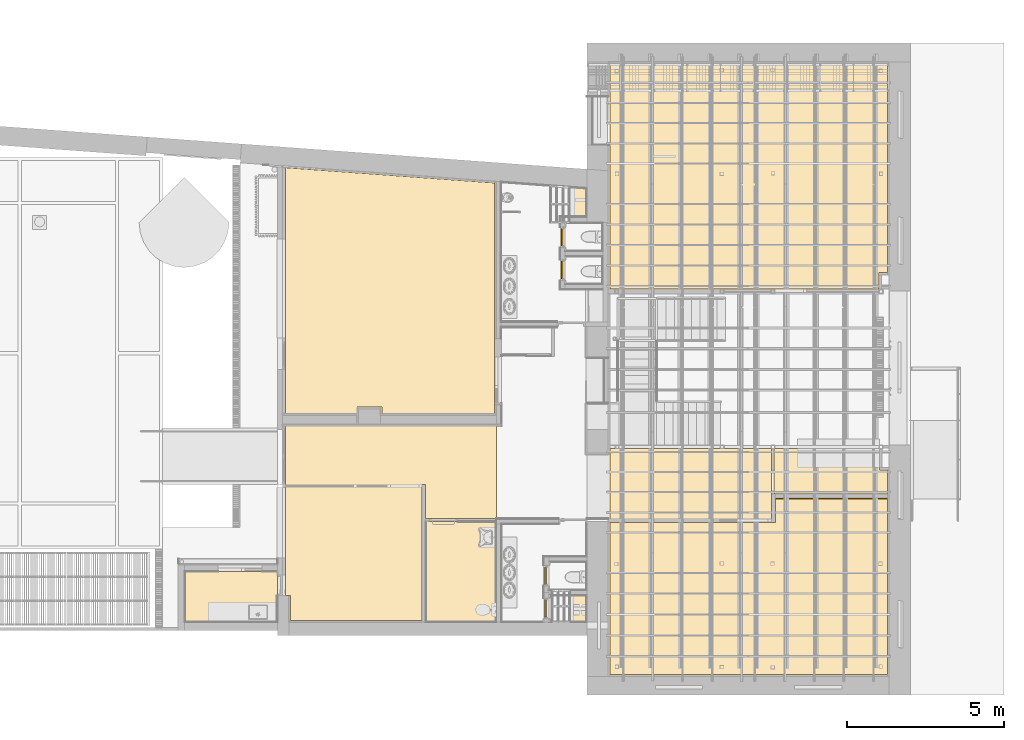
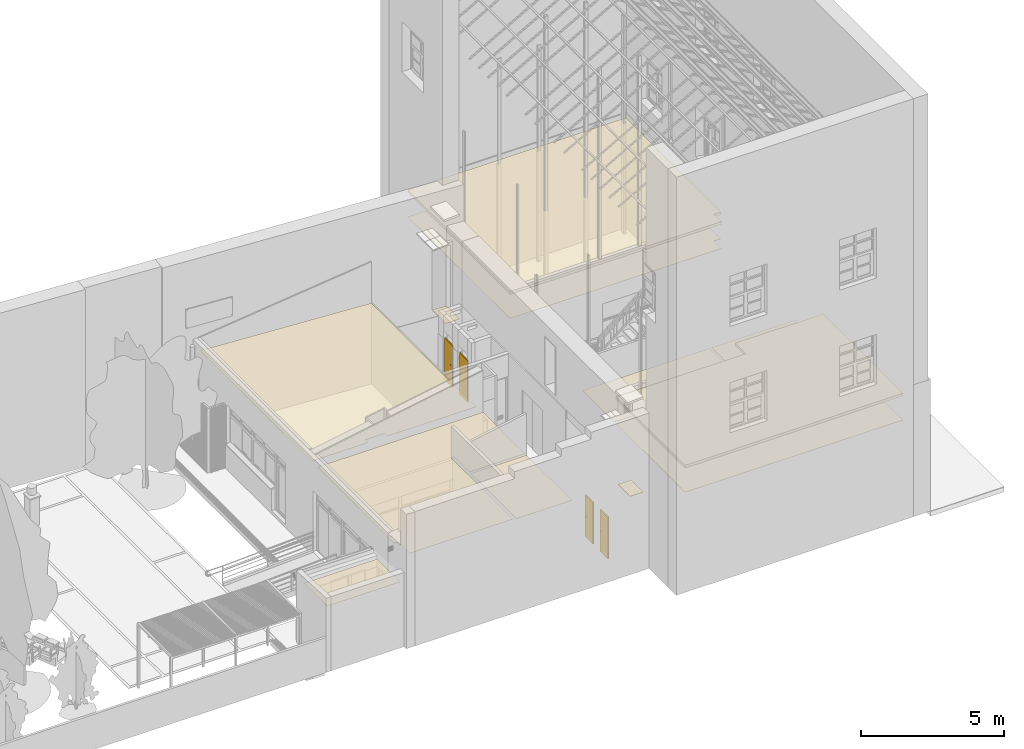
# One storey, part 56 of 75: 8 coverings, 4 doors, 4 elements without a shape of their own.
"""IFC2X3 building model written with IfcOpenShell, lengths in metres."""

from ifc_helpers import new_model, entity, si_unit, converted_unit, derived_unit, direction, frame, frame_2d, origin, origin_2d_with_axis, place, context, subcontext, project, spatial, polyline, rectangle, outline, extrude, source, transform, mapped, material, material_list, layer, layer_set, layer_usage, type_object, type_shapes, element, aggregate, save


model = new_model("IFC2X3")

# Units and contexts
model_context = context("Model", 3, precision=1e-05, world=origin(), true_north=direction((6.12303176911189e-17, 1.0)))
body_context = subcontext(model_context, "Body", "Model", "MODEL_VIEW")
ifc_project = project(units=[si_unit("LENGTHUNIT", "METRE"), si_unit("AREAUNIT", "SQUARE_METRE"), si_unit("VOLUMEUNIT", "CUBIC_METRE"), converted_unit("PLANEANGLEUNIT", "DEGREE", entity("IfcRatioMeasure", 0.0174532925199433), si_unit("PLANEANGLEUNIT", "RADIAN"), dimensions=[0, 0, 0, 0, 0, 0, 0]), si_unit("MASSUNIT", "GRAM", prefix="KILO"), derived_unit("MASSDENSITYUNIT", [(si_unit("MASSUNIT", "GRAM", prefix="KILO"), 1), (si_unit("LENGTHUNIT", "METRE"), -3)]), derived_unit("MOMENTOFINERTIAUNIT", [(si_unit("LENGTHUNIT", "METRE"), 4)]), si_unit("TIMEUNIT", "SECOND"), si_unit("FREQUENCYUNIT", "HERTZ"), si_unit("THERMODYNAMICTEMPERATUREUNIT", "DEGREE_CELSIUS"), derived_unit("THERMALTRANSMITTANCEUNIT", [(si_unit("MASSUNIT", "GRAM", prefix="KILO"), 1), (si_unit("THERMODYNAMICTEMPERATUREUNIT", "KELVIN"), -1), (si_unit("TIMEUNIT", "SECOND"), -3)]), derived_unit("VOLUMETRICFLOWRATEUNIT", [(si_unit("LENGTHUNIT", "METRE"), 3), (si_unit("TIMEUNIT", "SECOND"), -1)]), si_unit("ELECTRICCURRENTUNIT", "AMPERE"), si_unit("ELECTRICVOLTAGEUNIT", "VOLT"), si_unit("POWERUNIT", "WATT"), si_unit("FORCEUNIT", "NEWTON", prefix="KILO"), si_unit("ILLUMINANCEUNIT", "LUX"), si_unit("LUMINOUSFLUXUNIT", "LUMEN"), si_unit("LUMINOUSINTENSITYUNIT", "CANDELA"), derived_unit("USERDEFINED", [(si_unit("MASSUNIT", "GRAM", prefix="KILO"), -1), (si_unit("LENGTHUNIT", "METRE"), -2), (si_unit("TIMEUNIT", "SECOND"), 3), (si_unit("LUMINOUSFLUXUNIT", "LUMEN"), 1)]), derived_unit("LINEARVELOCITYUNIT", [(si_unit("LENGTHUNIT", "METRE"), 1), (si_unit("TIMEUNIT", "SECOND"), -1)]), si_unit("PRESSUREUNIT", "PASCAL"), derived_unit("USERDEFINED", [(si_unit("LENGTHUNIT", "METRE"), -2), (si_unit("MASSUNIT", "GRAM", prefix="KILO"), 1), (si_unit("TIMEUNIT", "SECOND"), -2)]), derived_unit("LINEARFORCEUNIT", [(si_unit("MASSUNIT", "GRAM", prefix="KILO"), 1), (si_unit("LENGTHUNIT", "METRE"), 1), (si_unit("TIMEUNIT", "SECOND"), -2), (si_unit("LENGTHUNIT", "METRE"), -1)]), derived_unit("PLANARFORCEUNIT", [(si_unit("MASSUNIT", "GRAM", prefix="KILO"), 1), (si_unit("LENGTHUNIT", "METRE"), 1), (si_unit("TIMEUNIT", "SECOND"), -2), (si_unit("LENGTHUNIT", "METRE"), -2)])], contexts=[model_context])

# Site, building, storey
site_placement = place(None, origin())
site = spatial("IfcSite", under=ifc_project, at=site_placement, Name="Superficie", CompositionType="ELEMENT")
building_placement = place(site_placement, origin())
building = spatial("IfcBuilding", under=site, at=building_placement, Name="Telegestiones", CompositionType="ELEMENT")
storey_placement = place(building_placement, origin())
storey = spatial("IfcBuildingStorey", under=building, at=storey_placement, Name="Nivel 0_NPT", CompositionType="ELEMENT", Elevation=0.0)

# Curtain wall, door
curtain_wall_type = type_object("IfcCurtainWallType", PredefinedType="NOTDEFINED")
curtain_wall_1_placement = place(storey_placement, origin())
curtain_wall_1 = element("IfcCurtainWall", 1, at=curtain_wall_1_placement, inside=storey, type_object=curtain_wall_type)
ifc_material_1 = material(Name="Metal - Aluminio")
ifc_material_2 = material(Name="<Unnamed>")
ifc_material_list_1 = material_list([ifc_material_1, ifc_material_1, ifc_material_2])
ifc_material_list_2 = material_list([ifc_material_1, ifc_material_1, ifc_material_2])
door_style_1 = type_object("IfcDoorStyle", Name="ARQ-PU-INT-Alu (muro cortina):ARQ-PU-IN-Alu-sshh", ConstructionType="NOTDEFINED", OperationType="NOTDEFINED", ParameterTakesPrecedence=False, Sizeable=False, material=ifc_material_list_2)
shared_shape_1 = source(origin(), body_context, "Body", "SweptSolid", [
    extrude(rectangle(XDim=0.0199999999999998, YDim=0.02, at=frame_2d((0.0, 8.67361737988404e-19), x_axis=(1.0, 0.0))), frame((0.188800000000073, -0.02, 0.9)), (0.0, 0.0, 1.0), 0.0200000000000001),
    extrude(rectangle(XDim=0.02, YDim=0.02, at=frame_2d((0.0, 8.67361737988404e-18), x_axis=(1.0, 0.0))), frame((0.188800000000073, 0.0699999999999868, 0.9), z_axis=(0.0, 0.0, 1.0), x_axis=(-1.0, 0.0, 0.0)), (0.0, 0.0, 1.0), 0.0200000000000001),
    extrude(rectangle(XDim=0.0499999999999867, YDim=0.550000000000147, at=origin_2d_with_axis()), frame((0.0, 0.0249999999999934, 0.0), z_axis=(0.0, 0.0, 1.0), x_axis=(0.0, -1.0, 0.0)), (0.0, 0.0, 1.0), 1.78),
])
type_shapes(door_style_1, [shared_shape_1])
door_1_placement = place(curtain_wall_1_placement, frame((4.06481262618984, -2.60639277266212, 0.32), z_axis=(0.0, 0.0, 1.0), x_axis=(0.0, 1.0, 0.0)))
door_1 = element("IfcDoor", 2, at=door_1_placement, type_object=door_style_1, material=ifc_material_list_1, Name="ARQ-PU-INT-Alu (muro cortina):ARQ-PU-IN-Alu-sshh", ObjectType="ARQ-PU-INT-Alu (muro cortina):ARQ-PU-IN-Alu-sshh", OverallHeight=1.78000000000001, OverallWidth=0.550000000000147, context=body_context, shape_type="MappedRepresentation", body=[
    mapped(shared_shape_1, transform((0.0, 0.0, 0.0), scale=1.0)),
])
aggregate(curtain_wall_1, [door_1])

curtain_wall_2_placement = place(storey_placement, origin())
curtain_wall_2 = element("IfcCurtainWall", 3, at=curtain_wall_2_placement, inside=storey, type_object=curtain_wall_type)
ifc_material_list_3 = material_list([ifc_material_1, ifc_material_1, ifc_material_2])
ifc_material_list_4 = material_list([ifc_material_1, ifc_material_1, ifc_material_2])
door_style_2 = type_object("IfcDoorStyle", Name="ARQ-PU-INT-Alu (muro cortina):ARQ-PU-IN-Alu-sshh", ConstructionType="NOTDEFINED", OperationType="NOTDEFINED", ParameterTakesPrecedence=False, Sizeable=False, material=ifc_material_list_4)
shared_shape_2 = source(origin(), body_context, "Body", "SweptSolid", [
    extrude(rectangle(XDim=0.0199999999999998, YDim=0.02, at=frame_2d((0.0, 8.67361737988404e-19), x_axis=(1.0, 0.0))), frame((0.188786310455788, -0.02, 0.9)), (0.0, 0.0, 1.0), 0.0200000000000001),
    extrude(rectangle(XDim=0.02, YDim=0.02, at=frame_2d((0.0, 8.67361737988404e-18), x_axis=(1.0, 0.0))), frame((0.188786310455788, 0.0699999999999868, 0.9), z_axis=(0.0, 0.0, 1.0), x_axis=(-1.0, 0.0, 0.0)), (0.0, 0.0, 1.0), 0.0200000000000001),
    extrude(rectangle(XDim=0.0499999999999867, YDim=0.549972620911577, at=origin_2d_with_axis()), frame((0.0, 0.0249999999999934, 0.0), z_axis=(0.0, 0.0, 1.0), x_axis=(0.0, -1.0, 0.0)), (0.0, 0.0, 1.0), 1.78),
])
type_shapes(door_style_2, [shared_shape_2])
door_2_placement = place(curtain_wall_2_placement, frame((4.06481262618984, -3.64637908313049, 0.32), z_axis=(0.0, 0.0, 1.0), x_axis=(0.0, 1.0, 0.0)))
door_2 = element("IfcDoor", 4, at=door_2_placement, type_object=door_style_2, material=ifc_material_list_3, Name="ARQ-PU-INT-Alu (muro cortina):ARQ-PU-IN-Alu-sshh", ObjectType="ARQ-PU-INT-Alu (muro cortina):ARQ-PU-IN-Alu-sshh", OverallHeight=1.78000000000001, OverallWidth=0.549972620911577, context=body_context, shape_type="MappedRepresentation", body=[
    mapped(shared_shape_2, transform((0.0, 0.0, 0.0), scale=1.0)),
])
aggregate(curtain_wall_2, [door_2])

curtain_wall_3_placement = place(storey_placement, origin())
curtain_wall_3 = element("IfcCurtainWall", 5, at=curtain_wall_3_placement, inside=storey, type_object=curtain_wall_type)
ifc_material_list_5 = material_list([ifc_material_1, ifc_material_1, ifc_material_2])
ifc_material_list_6 = material_list([ifc_material_1, ifc_material_1, ifc_material_2])
door_style_3 = type_object("IfcDoorStyle", Name="ARQ-PU-INT-Alu (muro cortina):ARQ-PU-IN-Alu-sshh", ConstructionType="NOTDEFINED", OperationType="NOTDEFINED", ParameterTakesPrecedence=False, Sizeable=False, material=ifc_material_list_6)
shared_shape_3 = source(origin(), body_context, "Body", "SweptSolid", [
    extrude(rectangle(XDim=0.0199999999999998, YDim=0.02, at=frame_2d((0.0, 8.67361737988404e-19), x_axis=(1.0, 0.0))), frame((0.19361817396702, -0.02, 0.9)), (0.0, 0.0, 1.0), 0.0200000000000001),
    extrude(rectangle(XDim=0.02, YDim=0.02, at=frame_2d((0.0, 8.67361737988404e-18), x_axis=(1.0, 0.0))), frame((0.19361817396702, 0.0699999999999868, 0.9), z_axis=(0.0, 0.0, 1.0), x_axis=(-1.0, 0.0, 0.0)), (0.0, 0.0, 1.0), 0.0200000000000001),
    extrude(rectangle(XDim=0.0499999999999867, YDim=0.55963634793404, at=origin_2d_with_axis()), frame((0.0, 0.0249999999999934, 0.0), z_axis=(0.0, 0.0, 1.0), x_axis=(0.0, -1.0, 0.0)), (0.0, 0.0, 1.0), 1.78),
])
type_shapes(door_style_3, [shared_shape_3])
door_3_placement = place(curtain_wall_3_placement, frame((4.58995224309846, 7.11342540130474, 0.32), z_axis=(0.0, 0.0, 1.0), x_axis=(0.0, 1.0, 0.0)))
door_3 = element("IfcDoor", 6, at=door_3_placement, type_object=door_style_3, material=ifc_material_list_5, Name="ARQ-PU-INT-Alu (muro cortina):ARQ-PU-IN-Alu-sshh", ObjectType="ARQ-PU-INT-Alu (muro cortina):ARQ-PU-IN-Alu-sshh", OverallHeight=1.78000000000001, OverallWidth=0.55963634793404, context=body_context, shape_type="MappedRepresentation", body=[
    mapped(shared_shape_3, transform((0.0, 0.0, 0.0), scale=1.0)),
])
aggregate(curtain_wall_3, [door_3])

curtain_wall_4_placement = place(storey_placement, origin())
curtain_wall_4 = element("IfcCurtainWall", 7, at=curtain_wall_4_placement, inside=storey, type_object=curtain_wall_type)
ifc_material_list_7 = material_list([ifc_material_1, ifc_material_1, ifc_material_2])
ifc_material_list_8 = material_list([ifc_material_1, ifc_material_1, ifc_material_2])
door_style_4 = type_object("IfcDoorStyle", Name="ARQ-PU-INT-Alu (muro cortina):ARQ-PU-IN-Alu-sshh", ConstructionType="NOTDEFINED", OperationType="NOTDEFINED", ParameterTakesPrecedence=False, Sizeable=False, material=ifc_material_list_8)
shared_shape_4 = source(origin(), body_context, "Body", "SweptSolid", [
    extrude(rectangle(XDim=0.02, YDim=0.0199999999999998, at=origin_2d_with_axis()), frame((-0.188799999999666, -0.02, 0.9), z_axis=(0.0, 0.0, 1.0), x_axis=(0.0, 1.0, 0.0)), (0.0, 0.0, 1.0), 0.0200000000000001),
    extrude(rectangle(XDim=0.02, YDim=0.02, at=origin_2d_with_axis()), frame((-0.188799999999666, 0.0699999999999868, 0.9), z_axis=(0.0, 0.0, 1.0), x_axis=(0.0, -1.0, 0.0)), (0.0, 0.0, 1.0), 0.0200000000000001),
    extrude(rectangle(XDim=0.549999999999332, YDim=0.0499999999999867, at=origin_2d_with_axis()), frame((0.0, 0.0249999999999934, 0.0), z_axis=(0.0, 0.0, 1.0), x_axis=(-1.0, 0.0, 0.0)), (0.0, 0.0, 1.0), 1.78),
])
type_shapes(door_style_4, [shared_shape_4])
door_4_placement = place(curtain_wall_4_placement, frame((4.58981262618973, 8.15860722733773, 0.32), z_axis=(0.0, 0.0, 1.0), x_axis=(0.0, 1.0, 0.0)))
door_4 = element("IfcDoor", 8, at=door_4_placement, type_object=door_style_4, material=ifc_material_list_7, Name="ARQ-PU-INT-Alu (muro cortina):ARQ-PU-IN-Alu-sshh", ObjectType="ARQ-PU-INT-Alu (muro cortina):ARQ-PU-IN-Alu-sshh", OverallHeight=1.78000000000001, OverallWidth=0.549999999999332, context=body_context, shape_type="MappedRepresentation", body=[
    mapped(shared_shape_4, transform((0.0, 0.0, 0.0), scale=1.0)),
])
aggregate(curtain_wall_4, [door_4])

# Coverings
ifc_material_3 = material(Name="Placa yeso entera")
ifc_layer_1 = layer(ifc_material_3, 0.012)
ifc_layer_set_1 = layer_set([ifc_layer_1], Name="Cielo raso de cubierta:ARQ-CL-IN-12-Ye")
ifc_layer_usage_1 = layer_usage(ifc_layer_set_1, "AXIS3", "POSITIVE", 0.0)
covering_type_1 = type_object("IfcCoveringType", Name="Cielo raso de cubierta:ARQ-CL-IN-12-Ye", PredefinedType="CEILING")
covering_1_placement = place(storey_placement, origin())
element("IfcCovering", 9, at=covering_1_placement, inside=storey, type_object=covering_type_1, material=ifc_layer_usage_1, Name="Cielo raso de cubierta:ARQ-CL-IN-12-Ye", ObjectType="Cielo raso de cubierta:ARQ-CL-IN-12-Ye", PredefinedType="CEILING", context=body_context, shape_type="SweptSolid", body=[
    extrude(outline(polyline([(-1.94049721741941, -3.65443924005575), (5.38799187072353, -3.65443924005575), (5.87499671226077, 2.99815485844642), (-1.94549721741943, 2.99815485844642), (-1.94549721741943, 0.728142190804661), (-1.74549985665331, 0.728142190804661), (-1.74549985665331, -0.0718578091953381), (-1.94049721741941, -0.0718578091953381), (-1.94049721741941, -3.65443924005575)])), frame((-1.23703251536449, 4.50008170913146, 3.45), z_axis=(0.0, 0.0, 1.0), x_axis=(0.0, 1.0, 0.0)), (0.0, 0.0, 1.0), 0.012),
])
ifc_layer_usage_2 = layer_usage(ifc_layer_set_1, "AXIS3", "POSITIVE", 0.0)
covering_type_2 = type_object("IfcCoveringType", Name="Cielo raso de cubierta:ARQ-CL-IN-12-Ye", PredefinedType="CEILING")
covering_2_placement = place(storey_placement, origin())
element("IfcCovering", 10, at=covering_2_placement, inside=storey, type_object=covering_type_2, material=ifc_layer_usage_2, Name="Cielo raso de cubierta:ARQ-CL-IN-12-Ye", ObjectType="Cielo raso de cubierta:ARQ-CL-IN-12-Ye", PredefinedType="CEILING", context=body_context, shape_type="SweptSolid", body=[
    extrude(outline(polyline([(-2.91523757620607, 1.20710389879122), (-2.91523757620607, -2.97473593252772), (-2.11523757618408, -2.97473593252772), (-2.11523757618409, -3.13473593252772), (3.27573968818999, -3.13473593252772), (3.27573968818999, 3.57526406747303), (0.339692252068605, 3.57526406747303), (0.339692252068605, 1.32710389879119), (1.41504321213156, 1.3271038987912), (1.41504321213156, 1.20710389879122), (-2.91523757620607, 1.20710389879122)])), frame((-1.10045144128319, -1.12115519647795, 3.45), z_axis=(0.0, 0.0, -1.0), x_axis=(0.0, 1.0, 0.0)), (0.0, 0.0, -1.0), 0.012),
    extrude(rectangle(XDim=2.2481601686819, YDim=3.19020387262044, at=frame_2d((-2.1094237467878e-15, 0.0), x_axis=(1.0, 0.0))), frame((1.35073254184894, -2.47656488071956, 3.45), z_axis=(0.0, 0.0, 1.0), x_axis=(-1.0, 0.0, 0.0)), (0.0, 0.0, 1.0), 0.012),
])
ifc_layer_usage_3 = layer_usage(ifc_layer_set_1, "AXIS3", "POSITIVE", 0.0)
covering_type_3 = type_object("IfcCoveringType", Name="Cielo raso de cubierta:ARQ-CL-IN-12-Ye", PredefinedType="CEILING")
covering_3_placement = place(storey_placement, origin())
element("IfcCovering", 11, at=covering_3_placement, inside=storey, type_object=covering_type_3, material=ifc_layer_usage_3, Name="Cielo raso de cubierta:ARQ-CL-IN-12-Ye", ObjectType="Cielo raso de cubierta:ARQ-CL-IN-12-Ye", PredefinedType="CEILING", context=body_context, shape_type="SweptSolid", body=[
    extrude(outline(polyline([(-2.573247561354, -0.906405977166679), (1.02771575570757, -0.906405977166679), (1.02771575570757, -0.142766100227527), (0.777757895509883, -0.142766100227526), (0.777757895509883, 0.519579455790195), (0.767773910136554, 0.519579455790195), (0.767773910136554, 0.52959262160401), (-2.573247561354, 0.52959262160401), (-2.573247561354, -0.906405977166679)])), frame((13.8870968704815, 0.905014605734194, 3.55)), (0.0, 0.0, 1.0), 0.012),
    extrude(outline(polyline([(-4.13049538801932, -2.13501577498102), (-0.56953207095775, -2.13501577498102), (-0.569532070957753, -1.35494420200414), (4.70002745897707, -1.35494420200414), (4.70002745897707, 3.48995997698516), (-4.13049538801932, 3.48995997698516), (-4.13049538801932, -2.13501577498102)])), frame((10.7843172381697, -2.2664071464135, 3.55), z_axis=(0.0, 0.0, 1.0), x_axis=(-1.0, 0.0, 0.0)), (0.0, 0.0, 1.0), 0.012),
    extrude(outline(polyline([(-3.03513333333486, -4.61099973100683), (5.79626666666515, -4.61099973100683), (5.79626666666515, 2.56700026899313), (-2.76113333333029, 2.56700026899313), (-2.76113333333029, 2.0439994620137), (-3.03513333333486, 2.0439994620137), (-3.03513333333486, -4.61099973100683)])), frame((11.8796792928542, 9.08260749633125, 3.55), z_axis=(0.0, 0.0, 1.0), x_axis=(-1.0, 0.0, 0.0)), (0.0, 0.0, 1.0), 0.012),
])
ifc_layer_usage_4 = layer_usage(ifc_layer_set_1, "AXIS3", "POSITIVE", 0.0)
covering_type_4 = type_object("IfcCoveringType", Name="Cielo raso de cubierta:ARQ-CL-IN-12-Ye", PredefinedType="CEILING")
covering_4_placement = place(storey_placement, origin())
element("IfcCovering", 12, at=covering_4_placement, inside=storey, type_object=covering_type_4, material=ifc_layer_usage_4, Name="Cielo raso de cubierta:ARQ-CL-IN-12-Ye", ObjectType="Cielo raso de cubierta:ARQ-CL-IN-12-Ye", PredefinedType="CEILING", context=body_context, shape_type="SweptSolid", body=[
    extrude(rectangle(XDim=5.13955952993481, YDim=2.23605700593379, at=origin_2d_with_axis()), frame((8.65406954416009, 0.321565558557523, 3.55)), (0.0, 0.0, 1.0), 0.012),
])
ifc_material_4 = material(Name="Lana de roca")
ifc_layer_2 = layer(ifc_material_4, 0.1)
ifc_layer_3 = layer(ifc_material_3, 0.012)
ifc_layer_set_2 = layer_set([ifc_layer_2, ifc_layer_3], Name="Cielo raso de cubierta:ARQ-CL-IN-22-Ye + Aisl")
ifc_layer_usage_5 = layer_usage(ifc_layer_set_2, "AXIS3", "POSITIVE", 0.0)
covering_type_5 = type_object("IfcCoveringType", Name="Cielo raso de cubierta:ARQ-CL-IN-22-Ye + Aisl", PredefinedType="CEILING")
covering_5_placement = place(storey_placement, origin())
element("IfcCovering", 13, at=covering_5_placement, inside=storey, type_object=covering_type_5, material=ifc_layer_usage_5, Name="Cielo raso de cubierta:ARQ-CL-IN-22-Ye + Aisl", ObjectType="Cielo raso de cubierta:ARQ-CL-IN-22-Ye + Aisl", PredefinedType="CEILING", context=body_context, shape_type="SweptSolid", body=[
    extrude(outline(polyline([(-3.03317206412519, -4.61266453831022), (5.7973507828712, -4.61266453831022), (5.7973507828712, 2.56532981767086), (-2.76417871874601, 2.56532981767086), (-2.76417871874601, 2.04733472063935), (-3.03317206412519, 2.04733472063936), (-3.03317206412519, -4.61266453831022)])), frame((11.8816405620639, 9.08094268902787, 4.6), z_axis=(0.0, 0.0, 1.0), x_axis=(-1.0, 0.0, 0.0)), (0.0, 0.0, 1.0), 0.112),
    extrude(outline(polyline([(-2.11501577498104, -0.569532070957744), (-2.11501577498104, -4.13049538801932), (3.47995997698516, -4.13049538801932), (3.47995997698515, 4.70002745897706), (-1.36494420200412, 4.70002745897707), (-1.36494420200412, -0.569532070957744), (-2.11501577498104, -0.569532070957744)])), frame((10.7843172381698, -2.27640714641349, 4.6), z_axis=(0.0, 0.0, -1.0), x_axis=(0.0, -1.0, 0.0)), (0.0, 0.0, -1.0), 0.112),
])
ifc_layer_usage_6 = layer_usage(ifc_layer_set_1, "AXIS3", "POSITIVE", 0.0)
covering_type_6 = type_object("IfcCoveringType", Name="Cielo raso de cubierta:ARQ-CL-IN-12-Ye", PredefinedType="CEILING")
covering_6_placement = place(storey_placement, origin())
element("IfcCovering", 14, at=covering_6_placement, inside=storey, type_object=covering_type_6, material=ifc_layer_usage_6, Name="Cielo raso de cubierta:ARQ-CL-IN-12-Ye", ObjectType="Cielo raso de cubierta:ARQ-CL-IN-12-Ye", PredefinedType="CEILING", context=body_context, shape_type="SweptSolid", body=[
    extrude(rectangle(XDim=0.859999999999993, YDim=0.529999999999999, at=frame_2d((2.77555756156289e-16, 0.0), x_axis=(1.0, 0.0))), frame((5.08928977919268, -3.65639277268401, 2.8), z_axis=(0.0, 0.0, 1.0), x_axis=(0.0, 1.0, 0.0)), (0.0, 0.0, 1.0), 0.012),
])
ifc_layer_usage_7 = layer_usage(ifc_layer_set_1, "AXIS3", "POSITIVE", 0.0)
covering_type_7 = type_object("IfcCoveringType", Name="Cielo raso de cubierta:ARQ-CL-IN-12-Ye", PredefinedType="CEILING")
covering_7_placement = place(storey_placement, origin())
element("IfcCovering", 15, at=covering_7_placement, inside=storey, type_object=covering_type_7, material=ifc_layer_usage_7, Name="Cielo raso de cubierta:ARQ-CL-IN-12-Ye", ObjectType="Cielo raso de cubierta:ARQ-CL-IN-12-Ye", PredefinedType="CEILING", context=body_context, shape_type="SweptSolid", body=[
    extrude(outline(polyline([(-0.469868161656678, -0.275), (0.449736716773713, -0.275), (0.48999960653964, 0.275000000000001), (-0.469868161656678, 0.275000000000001), (-0.469868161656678, -0.275)])), frame((5.0792897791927, 9.27347538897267, 2.4), z_axis=(0.0, 0.0, 1.0), x_axis=(0.0, 1.0, 0.0)), (0.0, 0.0, 1.0), 0.012),
])
ifc_layer_usage_8 = layer_usage(ifc_layer_set_1, "AXIS3", "POSITIVE", 0.0)
covering_type_8 = type_object("IfcCoveringType", Name="Cielo raso de cubierta:ARQ-CL-IN-12-Ye", PredefinedType="CEILING")
covering_8_placement = place(storey_placement, origin())
element("IfcCovering", 16, at=covering_8_placement, inside=storey, type_object=covering_type_8, material=ifc_layer_usage_8, Name="Cielo raso de cubierta:ARQ-CL-IN-12-Ye", ObjectType="Cielo raso de cubierta:ARQ-CL-IN-12-Ye", PredefinedType="CEILING", context=body_context, shape_type="SweptSolid", body=[
    extrude(rectangle(XDim=1.62000000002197, YDim=2.95999999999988, at=frame_2d((0.0, -4.44089209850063e-16), x_axis=(1.0, 0.0))), frame((-5.96518737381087, -3.27639277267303, 2.4), z_axis=(0.0, 0.0, 1.0), x_axis=(0.0, 1.0, 0.0)), (0.0, 0.0, 1.0), 0.012),
])

save(model, "model.ifc")
